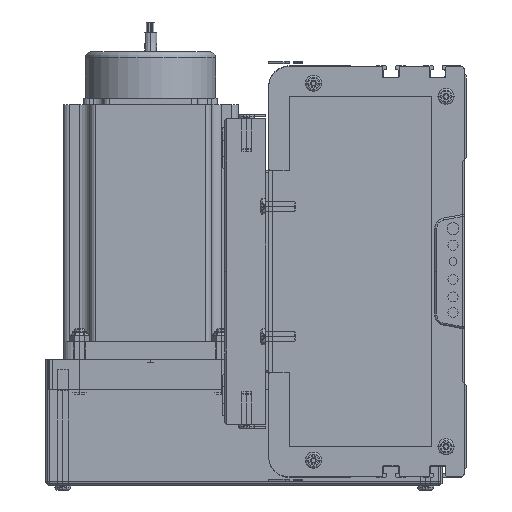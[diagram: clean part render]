
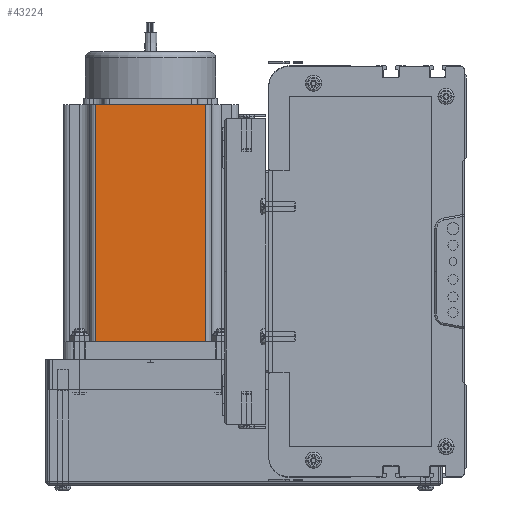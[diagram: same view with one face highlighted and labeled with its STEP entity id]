
A CAD part, left-side view. The second image highlights one B-rep face of the part: STEP entity #43224.
In plain terms, the highlighted planar face has unit normal (-1, 0, 0) as drawn and (0, -1, 0) by its records, which use the part's own axes.
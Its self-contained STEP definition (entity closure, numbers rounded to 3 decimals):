
#40698 = EDGE_LOOP ( 'NONE', ( #41699, #41985, #43323, #42275 ) ) ;
#41699 = ORIENTED_EDGE ( 'NONE', *, *, #43174, .T. ) ;
#41985 = ORIENTED_EDGE ( 'NONE', *, *, #43293, .T. ) ;
#42275 = ORIENTED_EDGE ( 'NONE', *, *, #43100, .T. ) ;
#42567 = VERTEX_POINT ( 'NONE', #154418 ) ;
#42741 = VERTEX_POINT ( 'NONE', #158103 ) ;
#42791 = VERTEX_POINT ( 'NONE', #160712 ) ;
#43100 = EDGE_CURVE ( 'NONE', #42567, #42741, #100133, .T. ) ;
#43174 = EDGE_CURVE ( 'NONE', #42741, #136992, #99931, .T. ) ;
#43224 = ADVANCED_FACE ( 'NONE', ( #100254 ), #100439, .F. ) ;
#43293 = EDGE_CURVE ( 'NONE', #136992, #42791, #100658, .T. ) ;
#43323 = ORIENTED_EDGE ( 'NONE', *, *, #137015, .F. ) ;
#99931 = LINE ( 'NONE', #100074, #100042 ) ;
#100041 = DIRECTION ( 'NONE',  ( 1., 0., 0. ) ) ;
#100042 = VECTOR ( 'NONE', #100041, 1000. ) ;
#100074 = CARTESIAN_POINT ( 'NONE',  ( 0., 0., 0. ) ) ;
#100130 = DIRECTION ( 'NONE',  ( 0., 0., -1. ) ) ;
#100131 = VECTOR ( 'NONE', #100130, 1000. ) ;
#100132 = CARTESIAN_POINT ( 'NONE',  ( 16.16, 0., 116.5 ) ) ;
#100133 = LINE ( 'NONE', #100132, #100131 ) ;
#100254 = FACE_OUTER_BOUND ( 'NONE', #40698, .T. ) ;
#100364 = DIRECTION ( 'NONE',  ( 0., 0., 1. ) ) ;
#100365 = DIRECTION ( 'NONE',  ( 0., 1., 0. ) ) ;
#100367 = CARTESIAN_POINT ( 'NONE',  ( 0., 0., 116.5 ) ) ;
#100396 = AXIS2_PLACEMENT_3D ( 'NONE', #100367, #100365, #100364 ) ;
#100439 = PLANE ( 'NONE',  #100396 ) ;
#100655 = DIRECTION ( 'NONE',  ( 0., 0., 1. ) ) ;
#100656 = VECTOR ( 'NONE', #100655, 1000. ) ;
#100657 = CARTESIAN_POINT ( 'NONE',  ( 69.74, 0., 116.5 ) ) ;
#100658 = LINE ( 'NONE', #100657, #100656 ) ;
#136992 = VERTEX_POINT ( 'NONE', #153054 ) ;
#137015 = EDGE_CURVE ( 'NONE', #42567, #42791, #153740, .T. ) ;
#153054 = CARTESIAN_POINT ( 'NONE',  ( 69.74, 0., 0. ) ) ;
#153740 = LINE ( 'NONE', #153863, #153846 ) ;
#153846 = VECTOR ( 'NONE', #153861, 1000. ) ;
#153861 = DIRECTION ( 'NONE',  ( 1., 0., 0. ) ) ;
#153863 = CARTESIAN_POINT ( 'NONE',  ( 0., 0., 116.5 ) ) ;
#154418 = CARTESIAN_POINT ( 'NONE',  ( 16.16, 0., 116.5 ) ) ;
#158103 = CARTESIAN_POINT ( 'NONE',  ( 16.16, 0., 0. ) ) ;
#160712 = CARTESIAN_POINT ( 'NONE',  ( 69.74, 0., 116.5 ) ) ;
